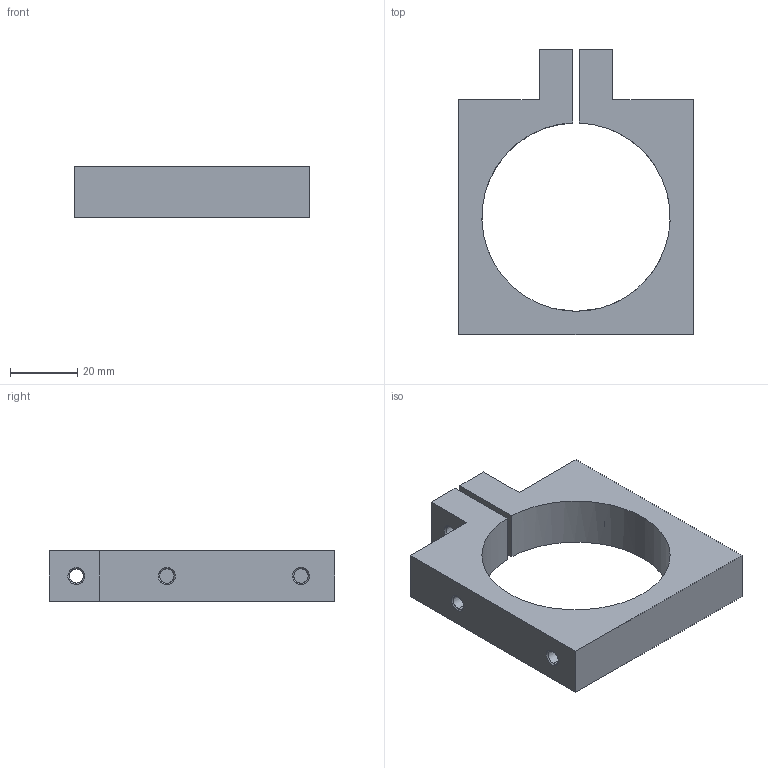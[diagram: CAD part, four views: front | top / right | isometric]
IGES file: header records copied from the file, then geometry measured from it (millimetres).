
Start section:  PTC IGES file: 370338_gt-nr30.igs
Global section: file name: 370338_gt-nr30.igs; native system: Pro/ENGINEER by Parametric Technology Corporation; preprocessor: 2004090; author: KAIHATSU01; organization: Unknown; date: 061017.102443; units: millimetre
Bounding box: 70 x 85 x 15 mm (x, y, z)
Volume: 39483.7 mm3; surface area: 14061.6 mm2
Topology: 1 solids, 1 shells, 42 faces, 96 edges, 60 vertices
Faces by surface type: bspline 42
